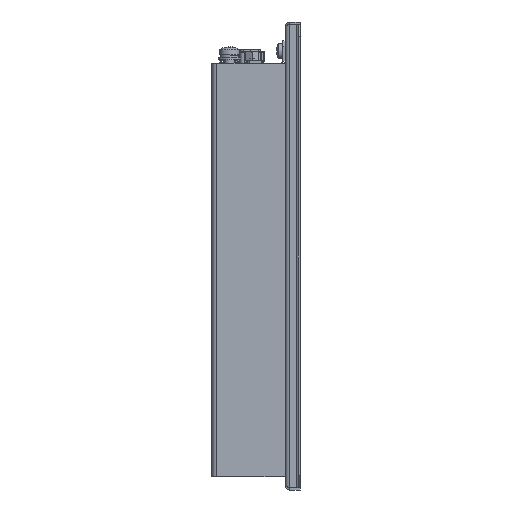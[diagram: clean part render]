
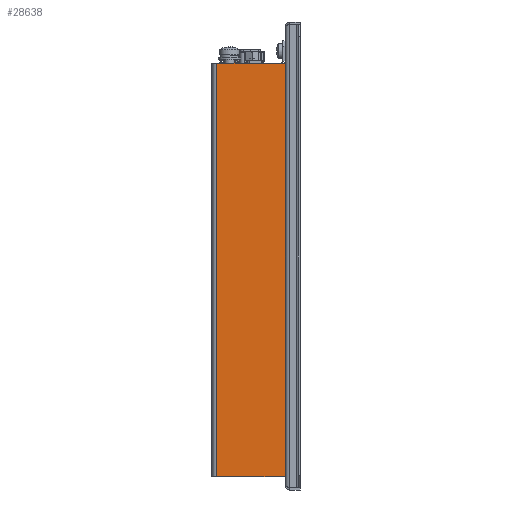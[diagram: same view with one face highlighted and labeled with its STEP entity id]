
A CAD part, left-side view. The second image highlights one B-rep face of the part: STEP entity #28638.
In plain terms, the highlighted planar face has unit normal (-1, 0, 0).
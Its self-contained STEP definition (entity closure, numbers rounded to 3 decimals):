
#1780=DIRECTION('',(0.,-1.,0.));
#1781=VECTOR('',#1780,27.);
#1782=CARTESIAN_POINT('',(-126.5,27.,-162.25));
#1783=LINE('',#1782,#1781);
#1884=DIRECTION('',(0.,0.707,0.707));
#1885=VECTOR('',#1884,1.414);
#1886=CARTESIAN_POINT('',(-126.5,-4.,-154.75));
#1887=LINE('',#1886,#1885);
#1888=DIRECTION('',(0.,0.,1.));
#1889=VECTOR('',#1888,6.5);
#1890=CARTESIAN_POINT('',(-126.5,-4.,-161.25));
#1891=LINE('',#1890,#1889);
#1892=DIRECTION('',(0.,-0.707,0.707));
#1893=VECTOR('',#1892,1.414);
#1894=CARTESIAN_POINT('',(-126.5,-3.,-162.25));
#1895=LINE('',#1894,#1893);
#1896=DIRECTION('',(0.,-0.707,-0.707));
#1897=VECTOR('',#1896,1.414);
#1898=CARTESIAN_POINT('',(-126.5,-1.5,-161.25));
#1899=LINE('',#1898,#1897);
#1900=DIRECTION('',(0.,0.,1.));
#1901=VECTOR('',#1900,3.);
#1902=CARTESIAN_POINT('',(-126.5,-1.5,-161.25));
#1903=LINE('',#1902,#1901);
#1904=DIRECTION('',(0.,1.,0.));
#1905=VECTOR('',#1904,1.5);
#1906=CARTESIAN_POINT('',(-126.5,-1.5,-158.25));
#1907=LINE('',#1906,#1905);
#1908=DIRECTION('',(0.,0.,-1.));
#1909=VECTOR('',#1908,4.);
#1910=CARTESIAN_POINT('',(-126.5,0.,-158.25));
#1911=LINE('',#1910,#1909);
#1912=DIRECTION('',(0.,0.,1.));
#1913=VECTOR('',#1912,163.5);
#1914=CARTESIAN_POINT('',(-126.5,27.,-162.25));
#1915=LINE('',#1914,#1913);
#1916=DIRECTION('',(0.,0.707,0.707));
#1917=VECTOR('',#1916,1.414);
#1918=CARTESIAN_POINT('',(-126.5,-4.,0.25));
#1919=LINE('',#1918,#1917);
#1920=DIRECTION('',(0.,0.,1.));
#1921=VECTOR('',#1920,8.);
#1922=CARTESIAN_POINT('',(-126.5,-4.,-7.75));
#1923=LINE('',#1922,#1921);
#1924=DIRECTION('',(0.,-0.707,0.707));
#1925=VECTOR('',#1924,1.414);
#1926=CARTESIAN_POINT('',(-126.5,-3.,-8.75));
#1927=LINE('',#1926,#1925);
#1928=DIRECTION('',(0.,1.,0.));
#1929=VECTOR('',#1928,0.5);
#1930=CARTESIAN_POINT('',(-126.5,-3.,-8.75));
#1931=LINE('',#1930,#1929);
#1932=DIRECTION('',(0.,-0.707,-0.707));
#1933=VECTOR('',#1932,1.414);
#1934=CARTESIAN_POINT('',(-126.5,-1.5,-7.75));
#1935=LINE('',#1934,#1933);
#1936=DIRECTION('',(0.,0.,1.));
#1937=VECTOR('',#1936,3.);
#1938=CARTESIAN_POINT('',(-126.5,-1.5,-7.75));
#1939=LINE('',#1938,#1937);
#1940=DIRECTION('',(0.,1.,0.));
#1941=VECTOR('',#1940,1.5);
#1942=CARTESIAN_POINT('',(-126.5,-1.5,-4.75));
#1943=LINE('',#1942,#1941);
#1944=DIRECTION('',(0.,0.,-1.));
#1945=VECTOR('',#1944,4.);
#1946=CARTESIAN_POINT('',(-126.5,0.,-4.75));
#1947=LINE('',#1946,#1945);
#1948=DIRECTION('',(0.,0.,-1.));
#1949=VECTOR('',#1948,55.);
#1950=CARTESIAN_POINT('',(-126.5,0.,-8.75));
#1951=LINE('',#1950,#1949);
#1952=DIRECTION('',(0.,1.,0.));
#1953=VECTOR('',#1952,3.);
#1954=CARTESIAN_POINT('',(-126.5,-3.,-63.75));
#1955=LINE('',#1954,#1953);
#1956=DIRECTION('',(0.,0.707,0.707));
#1957=VECTOR('',#1956,1.414);
#1958=CARTESIAN_POINT('',(-126.5,-4.,-64.75));
#1959=LINE('',#1958,#1957);
#1960=DIRECTION('',(0.,0.,1.));
#1961=VECTOR('',#1960,28.);
#1962=CARTESIAN_POINT('',(-126.5,-4.,-92.75));
#1963=LINE('',#1962,#1961);
#1964=DIRECTION('',(0.,-0.707,0.707));
#1965=VECTOR('',#1964,1.414);
#1966=CARTESIAN_POINT('',(-126.5,-3.,-93.75));
#1967=LINE('',#1966,#1965);
#1968=DIRECTION('',(0.,1.,0.));
#1969=VECTOR('',#1968,3.);
#1970=CARTESIAN_POINT('',(-126.5,-3.,-93.75));
#1971=LINE('',#1970,#1969);
#1972=DIRECTION('',(0.,0.,-1.));
#1973=VECTOR('',#1972,60.);
#1974=CARTESIAN_POINT('',(-126.5,0.,-93.75));
#1975=LINE('',#1974,#1973);
#1976=DIRECTION('',(0.,1.,0.));
#1977=VECTOR('',#1976,3.);
#1978=CARTESIAN_POINT('',(-126.5,-3.,-153.75));
#1979=LINE('',#1978,#1977);
#1992=DIRECTION('',(0.,-1.,0.));
#1993=VECTOR('',#1992,0.5);
#1994=CARTESIAN_POINT('',(-126.5,-2.5,-162.25));
#1995=LINE('',#1994,#1993);
#2012=DIRECTION('',(0.,1.,0.));
#2013=VECTOR('',#2012,30.);
#2014=CARTESIAN_POINT('',(-126.5,-3.,1.25));
#2015=LINE('',#2014,#2013);
#21799=CARTESIAN_POINT('',(-126.5,27.,-162.25));
#21801=VERTEX_POINT('',#21799);
#21804=CARTESIAN_POINT('',(-126.5,27.,1.25));
#21805=VERTEX_POINT('',#21804);
#24290=CARTESIAN_POINT('',(-126.5,0.,-158.25));
#24291=CARTESIAN_POINT('',(-126.5,0.,-162.25));
#24292=VERTEX_POINT('',#24290);
#24293=VERTEX_POINT('',#24291);
#24294=CARTESIAN_POINT('',(-126.5,-1.5,-158.25));
#24295=VERTEX_POINT('',#24294);
#24314=CARTESIAN_POINT('',(-126.5,0.,-8.75));
#24315=CARTESIAN_POINT('',(-126.5,0.,-63.75));
#24316=VERTEX_POINT('',#24314);
#24317=VERTEX_POINT('',#24315);
#24318=CARTESIAN_POINT('',(-126.5,0.,-93.75));
#24319=CARTESIAN_POINT('',(-126.5,0.,-153.75));
#24320=VERTEX_POINT('',#24318);
#24321=VERTEX_POINT('',#24319);
#24342=CARTESIAN_POINT('',(-126.5,-4.,-154.75));
#24343=CARTESIAN_POINT('',(-126.5,-3.,-153.75));
#24344=VERTEX_POINT('',#24342);
#24345=VERTEX_POINT('',#24343);
#24350=CARTESIAN_POINT('',(-126.5,-3.,-93.75));
#24351=CARTESIAN_POINT('',(-126.5,-4.,-92.75));
#24352=VERTEX_POINT('',#24350);
#24353=VERTEX_POINT('',#24351);
#24358=CARTESIAN_POINT('',(-126.5,-4.,-64.75));
#24359=CARTESIAN_POINT('',(-126.5,-3.,-63.75));
#24360=VERTEX_POINT('',#24358);
#24361=VERTEX_POINT('',#24359);
#24366=CARTESIAN_POINT('',(-126.5,-3.,-8.75));
#24367=CARTESIAN_POINT('',(-126.5,-4.,-7.75));
#24368=VERTEX_POINT('',#24366);
#24369=VERTEX_POINT('',#24367);
#24406=CARTESIAN_POINT('',(-126.5,-2.5,-8.75));
#24407=VERTEX_POINT('',#24406);
#24410=CARTESIAN_POINT('',(-126.5,-4.,-161.25));
#24411=VERTEX_POINT('',#24410);
#24412=CARTESIAN_POINT('',(-126.5,-4.,0.25));
#24413=VERTEX_POINT('',#24412);
#24446=CARTESIAN_POINT('',(-126.5,-1.5,-4.75));
#24447=CARTESIAN_POINT('',(-126.5,0.,-4.75));
#24448=VERTEX_POINT('',#24446);
#24449=VERTEX_POINT('',#24447);
#24462=CARTESIAN_POINT('',(-126.5,-1.5,-7.75));
#24463=VERTEX_POINT('',#24462);
#24466=CARTESIAN_POINT('',(-126.5,-1.5,-161.25));
#24467=CARTESIAN_POINT('',(-126.5,-2.5,-162.25));
#24468=VERTEX_POINT('',#24466);
#24469=VERTEX_POINT('',#24467);
#24486=CARTESIAN_POINT('',(-126.5,-3.,-162.25));
#24487=VERTEX_POINT('',#24486);
#24490=CARTESIAN_POINT('',(-126.5,-3.,1.25));
#24491=VERTEX_POINT('',#24490);
#28580=CARTESIAN_POINT('',(-126.5,27.,-162.25));
#28581=DIRECTION('',(-1.,0.,0.));
#28582=DIRECTION('',(0.,-1.,0.));
#28583=AXIS2_PLACEMENT_3D('',#28580,#28581,#28582);
#28584=PLANE('',#28583);
#28585=ORIENTED_EDGE('',*,*,#28570,.F.);
#28587=ORIENTED_EDGE('',*,*,#28586,.F.);
#28589=ORIENTED_EDGE('',*,*,#28588,.F.);
#28591=ORIENTED_EDGE('',*,*,#28590,.F.);
#28593=ORIENTED_EDGE('',*,*,#28592,.F.);
#28595=ORIENTED_EDGE('',*,*,#28594,.T.);
#28597=ORIENTED_EDGE('',*,*,#28596,.T.);
#28599=ORIENTED_EDGE('',*,*,#28598,.T.);
#28600=ORIENTED_EDGE('',*,*,#28499,.F.);
#28601=ORIENTED_EDGE('',*,*,#28469,.T.);
#28603=ORIENTED_EDGE('',*,*,#28602,.F.);
#28605=ORIENTED_EDGE('',*,*,#28604,.F.);
#28607=ORIENTED_EDGE('',*,*,#28606,.F.);
#28609=ORIENTED_EDGE('',*,*,#28608,.F.);
#28611=ORIENTED_EDGE('',*,*,#28610,.T.);
#28613=ORIENTED_EDGE('',*,*,#28612,.F.);
#28615=ORIENTED_EDGE('',*,*,#28614,.T.);
#28617=ORIENTED_EDGE('',*,*,#28616,.T.);
#28619=ORIENTED_EDGE('',*,*,#28618,.T.);
#28621=ORIENTED_EDGE('',*,*,#28620,.T.);
#28623=ORIENTED_EDGE('',*,*,#28622,.F.);
#28625=ORIENTED_EDGE('',*,*,#28624,.F.);
#28627=ORIENTED_EDGE('',*,*,#28626,.F.);
#28629=ORIENTED_EDGE('',*,*,#28628,.F.);
#28631=ORIENTED_EDGE('',*,*,#28630,.T.);
#28633=ORIENTED_EDGE('',*,*,#28632,.T.);
#28635=ORIENTED_EDGE('',*,*,#28634,.F.);
#28636=EDGE_LOOP('',(#28585,#28587,#28589,#28591,#28593,#28595,#28597,#28599,
#28600,#28601,#28603,#28605,#28607,#28609,#28611,#28613,#28615,#28617,#28619,
#28621,#28623,#28625,#28627,#28629,#28631,#28633,#28635));
#28637=FACE_OUTER_BOUND('',#28636,.F.);
#28469=EDGE_CURVE('',#21801,#21805,#1915,.T.);
#28499=EDGE_CURVE('',#21801,#24293,#1783,.T.);
#28570=EDGE_CURVE('',#24344,#24345,#1887,.T.);
#28586=EDGE_CURVE('',#24411,#24344,#1891,.T.);
#28588=EDGE_CURVE('',#24487,#24411,#1895,.T.);
#28590=EDGE_CURVE('',#24469,#24487,#1995,.T.);
#28592=EDGE_CURVE('',#24468,#24469,#1899,.T.);
#28594=EDGE_CURVE('',#24468,#24295,#1903,.T.);
#28596=EDGE_CURVE('',#24295,#24292,#1907,.T.);
#28598=EDGE_CURVE('',#24292,#24293,#1911,.T.);
#28602=EDGE_CURVE('',#24491,#21805,#2015,.T.);
#28604=EDGE_CURVE('',#24413,#24491,#1919,.T.);
#28606=EDGE_CURVE('',#24369,#24413,#1923,.T.);
#28608=EDGE_CURVE('',#24368,#24369,#1927,.T.);
#28610=EDGE_CURVE('',#24368,#24407,#1931,.T.);
#28612=EDGE_CURVE('',#24463,#24407,#1935,.T.);
#28614=EDGE_CURVE('',#24463,#24448,#1939,.T.);
#28616=EDGE_CURVE('',#24448,#24449,#1943,.T.);
#28618=EDGE_CURVE('',#24449,#24316,#1947,.T.);
#28620=EDGE_CURVE('',#24316,#24317,#1951,.T.);
#28622=EDGE_CURVE('',#24361,#24317,#1955,.T.);
#28624=EDGE_CURVE('',#24360,#24361,#1959,.T.);
#28626=EDGE_CURVE('',#24353,#24360,#1963,.T.);
#28628=EDGE_CURVE('',#24352,#24353,#1967,.T.);
#28630=EDGE_CURVE('',#24352,#24320,#1971,.T.);
#28632=EDGE_CURVE('',#24320,#24321,#1975,.T.);
#28634=EDGE_CURVE('',#24345,#24321,#1979,.T.);
#28638=ADVANCED_FACE('',(#28637),#28584,.T.);
